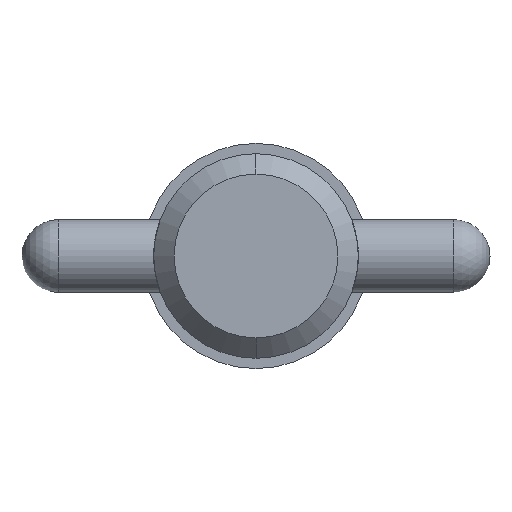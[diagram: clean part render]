
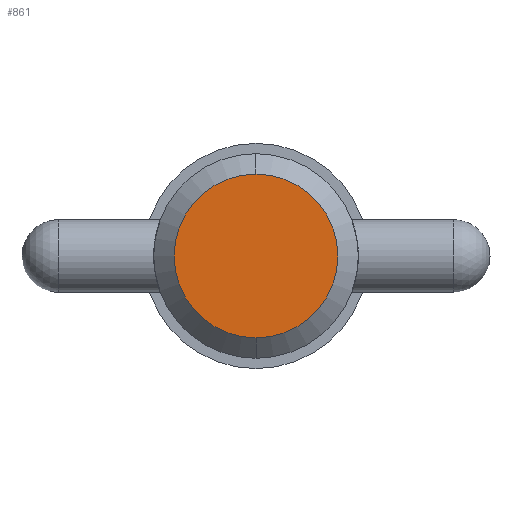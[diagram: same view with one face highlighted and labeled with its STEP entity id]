
A CAD part, left-side view. The second image highlights one B-rep face of the part: STEP entity #861.
In plain terms, the highlighted planar face has unit normal (-1, 0, 0).
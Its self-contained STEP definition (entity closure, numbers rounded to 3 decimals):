
#52 = AXIS2_PLACEMENT_3D ( 'NONE', #1001, #504, #686 ) ;
#55 = VERTEX_POINT ( 'NONE', #61 ) ;
#61 = CARTESIAN_POINT ( 'NONE',  ( 0., 0., -4.444 ) ) ;
#92 = CARTESIAN_POINT ( 'NONE',  ( 0., 0., 4.444 ) ) ;
#98 = AXIS2_PLACEMENT_3D ( 'NONE', #530, #275, #199 ) ;
#199 = DIRECTION ( 'NONE',  ( 0., 0., -1. ) ) ;
#218 = CARTESIAN_POINT ( 'NONE',  ( 0., 0., 0. ) ) ;
#225 = AXIS2_PLACEMENT_3D ( 'NONE', #218, #996, #612 ) ;
#227 = VERTEX_POINT ( 'NONE', #92 ) ;
#275 = DIRECTION ( 'NONE',  ( 1., 0., 0. ) ) ;
#443 = FACE_OUTER_BOUND ( 'NONE', #492, .T. ) ;
#492 = EDGE_LOOP ( 'NONE', ( #997, #818 ) ) ;
#504 = DIRECTION ( 'NONE',  ( 1., 0., 0. ) ) ;
#530 = CARTESIAN_POINT ( 'NONE',  ( 0., 0., 0. ) ) ;
#549 = CIRCLE ( 'NONE', #98, 4.444 ) ;
#612 = DIRECTION ( 'NONE',  ( 0., 0., 1. ) ) ;
#686 = DIRECTION ( 'NONE',  ( 0., 0., -1. ) ) ;
#818 = ORIENTED_EDGE ( 'NONE', *, *, #985, .F. ) ;
#861 = ADVANCED_FACE ( 'NONE', ( #443 ), #1020, .T. ) ;
#952 = EDGE_CURVE ( 'NONE', #55, #227, #549, .T. ) ;
#961 = CIRCLE ( 'NONE', #52, 4.444 ) ;
#985 = EDGE_CURVE ( 'NONE', #227, #55, #961, .T. ) ;
#996 = DIRECTION ( 'NONE',  ( -1., 0., 0. ) ) ;
#997 = ORIENTED_EDGE ( 'NONE', *, *, #952, .F. ) ;
#1001 = CARTESIAN_POINT ( 'NONE',  ( 0., 0., 0. ) ) ;
#1020 = PLANE ( 'NONE',  #225 ) ;
